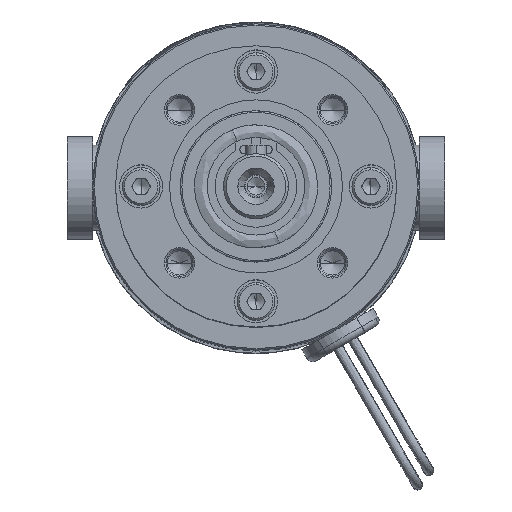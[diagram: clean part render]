
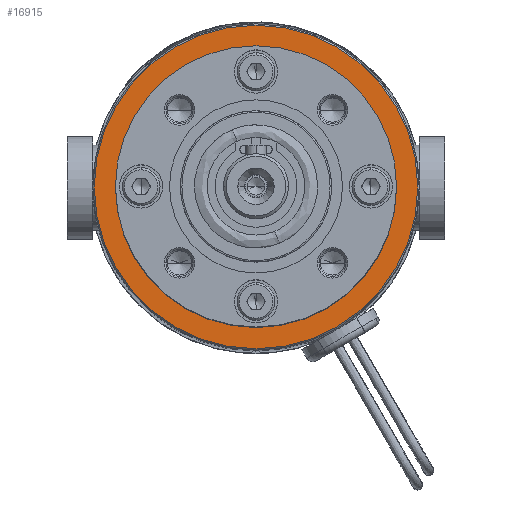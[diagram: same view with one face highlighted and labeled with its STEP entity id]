
A CAD part, top view. The second image highlights one B-rep face of the part: STEP entity #16915.
In plain terms, the highlighted planar face has unit normal (0, 0, 1).
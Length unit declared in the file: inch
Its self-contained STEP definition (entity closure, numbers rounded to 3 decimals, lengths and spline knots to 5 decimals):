
#6 = AXIS2_PLACEMENT_3D ( 'NONE', #89761, #36260, #98780 ) ;
#1759 = AXIS2_PLACEMENT_3D ( 'NONE', #40295, #102812, #49305 ) ;
#6628 = DIRECTION ( 'NONE',  ( 0., 0., 1. ) ) ;
#8970 = DIRECTION ( 'NONE',  ( 0., 0., 1. ) ) ;
#9861 = FACE_BOUND ( 'NONE', #97056, .T. ) ;
#12671 = EDGE_CURVE ( 'NONE', #86010, #31340, #71059, .T. ) ;
#16915 = ADVANCED_FACE ( 'NONE', ( #54560, #9861 ), #62064, .T. ) ;
#19958 = ORIENTED_EDGE ( 'NONE', *, *, #80874, .T. ) ;
#22560 = ORIENTED_EDGE ( 'NONE', *, *, #89435, .F. ) ;
#31340 = VERTEX_POINT ( 'NONE', #108144 ) ;
#34149 = CARTESIAN_POINT ( 'NONE',  ( -1.1775, 0., -0.68406 ) ) ;
#36150 = DIRECTION ( 'NONE',  ( 0., 0., 1. ) ) ;
#36260 = DIRECTION ( 'NONE',  ( 0., 0., 1. ) ) ;
#39311 = VERTEX_POINT ( 'NONE', #34149 ) ;
#40295 = CARTESIAN_POINT ( 'NONE',  ( 0., 0., -0.68406 ) ) ;
#49305 = DIRECTION ( 'NONE',  ( 1., 0., 0. ) ) ;
#54560 = FACE_OUTER_BOUND ( 'NONE', #57836, .T. ) ;
#57836 = EDGE_LOOP ( 'NONE', ( #89469, #19958 ) ) ;
#60095 = CARTESIAN_POINT ( 'NONE',  ( 0., 0., -0.68406 ) ) ;
#62064 = PLANE ( 'NONE',  #100903 ) ;
#62425 = CARTESIAN_POINT ( 'NONE',  ( 0., 1.1875, -0.68406 ) ) ;
#62987 = CIRCLE ( 'NONE', #1759, 1.1775 ) ;
#69006 = DIRECTION ( 'NONE',  ( 1., 0., 0. ) ) ;
#70100 = AXIS2_PLACEMENT_3D ( 'NONE', #60095, #6628, #69006 ) ;
#70785 = CIRCLE ( 'NONE', #6, 0.9595 ) ;
#71059 = CIRCLE ( 'NONE', #102602, 0.9595 ) ;
#71339 = DIRECTION ( 'NONE',  ( 1., 0., 0. ) ) ;
#80874 = EDGE_CURVE ( 'NONE', #109440, #39311, #101381, .T. ) ;
#86010 = VERTEX_POINT ( 'NONE', #107859 ) ;
#89435 = EDGE_CURVE ( 'NONE', #31340, #86010, #70785, .T. ) ;
#89469 = ORIENTED_EDGE ( 'NONE', *, *, #100747, .T. ) ;
#89666 = CARTESIAN_POINT ( 'NONE',  ( 0., 0., -0.68406 ) ) ;
#89761 = CARTESIAN_POINT ( 'NONE',  ( 0., 0., -0.68406 ) ) ;
#95178 = ORIENTED_EDGE ( 'NONE', *, *, #12671, .F. ) ;
#97056 = EDGE_LOOP ( 'NONE', ( #22560, #95178 ) ) ;
#98685 = DIRECTION ( 'NONE',  ( 1., 0., 0. ) ) ;
#98780 = DIRECTION ( 'NONE',  ( 1., 0., 0. ) ) ;
#100747 = EDGE_CURVE ( 'NONE', #39311, #109440, #62987, .T. ) ;
#100903 = AXIS2_PLACEMENT_3D ( 'NONE', #62425, #8970, #71339 ) ;
#101381 = CIRCLE ( 'NONE', #70100, 1.1775 ) ;
#102602 = AXIS2_PLACEMENT_3D ( 'NONE', #89666, #36150, #98685 ) ;
#102812 = DIRECTION ( 'NONE',  ( 0., 0., 1. ) ) ;
#107859 = CARTESIAN_POINT ( 'NONE',  ( -0.9595, 0., -0.68406 ) ) ;
#108144 = CARTESIAN_POINT ( 'NONE',  ( 0.9595, 0., -0.68406 ) ) ;
#109440 = VERTEX_POINT ( 'NONE', #110892 ) ;
#110892 = CARTESIAN_POINT ( 'NONE',  ( 1.1775, 0., -0.68406 ) ) ;
